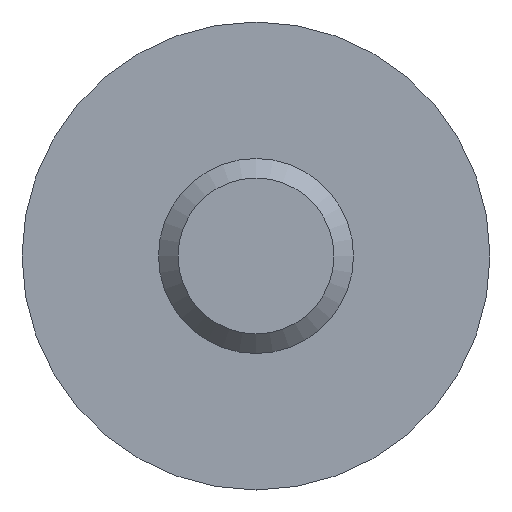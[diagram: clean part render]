
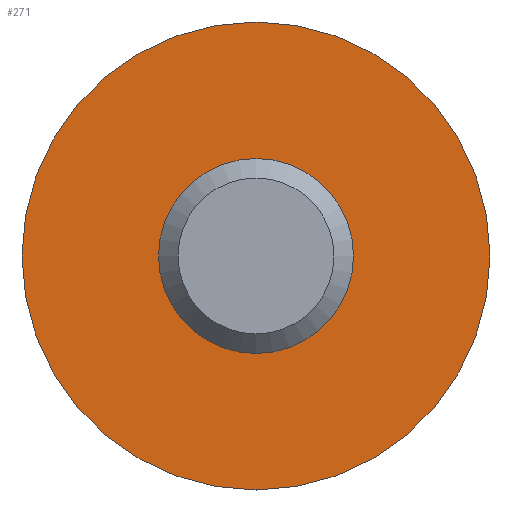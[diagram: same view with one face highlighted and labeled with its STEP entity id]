
A CAD part, front view. The second image highlights one B-rep face of the part: STEP entity #271.
In plain terms, the highlighted planar face has unit normal (0, -1, 0).
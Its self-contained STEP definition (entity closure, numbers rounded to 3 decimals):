
#234=CARTESIAN_POINT('',(8.044,22.807,-6.6));
#235=DIRECTION('',(0.0,1.0,0.0));
#236=DIRECTION('',(0.0,0.0,1.0));
#237=AXIS2_PLACEMENT_3D('',#234,#235,#236);
#238=PLANE('',#237);
#239=CARTESIAN_POINT('',(8.044,22.807,6.));
#240=VERTEX_POINT('',#239);
#241=CARTESIAN_POINT('',(8.044,22.807,0.));
#242=DIRECTION('',(0.0,1.0,0.0));
#243=DIRECTION('',(-0.581,0.0,0.814));
#244=AXIS2_PLACEMENT_3D('',#241,#242,#243);
#245=CIRCLE('',#244,6.);
#246=EDGE_CURVE('',#240,#240,#245,.T.);
#247=ORIENTED_EDGE('',*,*,#246,.F.);
#248=CARTESIAN_POINT('',(8.044,22.807,2.5));
#249=VERTEX_POINT('',#248);
#250=CARTESIAN_POINT('',(8.044,22.807,6.));
#251=DIRECTION('',(0.0,0.0,-1.0));
#252=VECTOR('',#251,3.5);
#253=LINE('',#250,#252);
#254=EDGE_CURVE('',#240,#249,#253,.T.);
#255=ORIENTED_EDGE('',*,*,#254,.T.);
#256=CARTESIAN_POINT('',(8.044,22.807,0.));
#257=DIRECTION('',(0.0,1.,0.0));
#258=DIRECTION('',(-0.581,0.0,0.814));
#259=AXIS2_PLACEMENT_3D('',#256,#257,#258);
#260=CIRCLE('',#259,2.5);
#261=EDGE_CURVE('',#249,#249,#260,.T.);
#262=ORIENTED_EDGE('',*,*,#261,.T.);
#263=CARTESIAN_POINT('',(8.044,22.807,6.));
#264=DIRECTION('',(0.0,0.0,-1.0));
#265=VECTOR('',#264,3.5);
#266=LINE('',#263,#265);
#267=EDGE_CURVE('',#240,#249,#266,.T.);
#268=ORIENTED_EDGE('',*,*,#267,.F.);
#269=EDGE_LOOP('',(#247,#255,#262,#268));
#270=FACE_OUTER_BOUND('',#269,.T.);
#271=ADVANCED_FACE('',(#270),#238,.F.);
